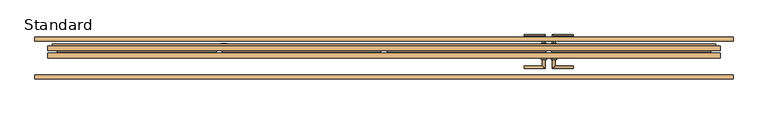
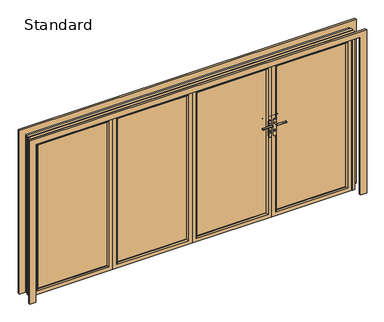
"""IFC4 building model written with IfcOpenShell, lengths in millimetres: door geometry, SMARTS_Visofold1000 : Standard."""

from ifc_helpers import new_model, si_unit, point, frame, frame_2d, origin, place, context, project, spatial, polyline, circle_curve, ellipse_curve, trimmed, segment, composite_curve, outline, extrude, faceted_brep, source, transform, mapped, element, save
from ifc_brep_helpers import plane_surface, cylinder_surface, advanced_brep


def standard_4f1c1134(model_context):
    return source(origin(), model_context, "Body", "SolidModel", [
        advanced_brep(
        [(1010.0, 75.0, 1232.5996413), (1010.0, 75.0, 1215.5996413), (1010.0, 130.0, 1215.5996413), (1010.0, 130.0, 1232.5996413), (1125.0, 130.0, 1232.5996413), (1125.0, 130.0, 1215.5996413)],
        [
            (0, 1, circle_curve(frame((1010.0, 75.0, 1224.0996413), z_axis=(0.0, -1.0, 0.0), x_axis=(0.0, 0.0, -1.0)), 8.5)),
            (1, 0, circle_curve(frame((1010.0, 75.0, 1224.0996413), z_axis=(0.0, -1.0, 0.0), x_axis=(0.0, 0.0, -1.0)), 8.5)),
            (1, 2),
            (2, 3, ellipse_curve(frame((1010.0, 130.0, 1224.0996413), z_axis=(-0.7071067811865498, -0.7071067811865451, 0.0), x_axis=(0.707106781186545, -0.70710678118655, 0.0)), 12.0208153, 8.5)),
            (3, 0),
            (3, 2, ellipse_curve(frame((1010.0, 130.0, 1224.0996413), z_axis=(-0.7071067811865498, -0.7071067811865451, 0.0), x_axis=(0.707106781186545, -0.70710678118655, 0.0)), 12.0208153, 8.5)),
            (4, 5, circle_curve(frame((1125.0, 130.0, 1224.0996413), z_axis=(1.0, 0.0, 0.0), x_axis=(0.0, 0.0, -1.0)), 8.5)),
            (5, 4, circle_curve(frame((1125.0, 130.0, 1224.0996413), z_axis=(1.0, 0.0, 0.0), x_axis=(0.0, 0.0, -1.0)), 8.5)),
            (2, 5),
            (4, 3),
        ],
        [
            plane_surface(frame((1010.0, 75.0, 1224.0996413), z_axis=(0.0, -1.0, 0.0), x_axis=(0.0, 0.0, -1.0))),
            cylinder_surface(frame((1010.0, 75.0, 1224.0996413), z_axis=(0.0, -1.0, 0.0), x_axis=(0.0, 0.0, -1.0)), 8.5),
            plane_surface(frame((1125.0, 130.0, 1224.0996413), z_axis=(1.0, 0.0, 0.0), x_axis=(0.0, 0.0, -1.0))),
            cylinder_surface(frame((1010.0, 130.0, 1224.0996413), z_axis=(-1.0, 0.0, 0.0), x_axis=(0.0, 0.0, -1.0)), 8.5),
        ],
        [
            (0, [[1, 2]]),
            (1, [[-2, 3, 4, 5]]),
            (1, [[-1, -5, 6, -3]]),
            (2, [[7, 8]]),
            (3, [[-4, 9, -7, 10]]),
            (3, [[-6, -10, -8, -9]]),
        ],
    ),
        extrude(outline(composite_curve([segment(trimmed(circle_curve(frame_2d((1258.0996413, 1010.0)), 16.0), [point((1258.0996413, 1026.0))], [point((1258.0996413, 994.0))], False, "CARTESIAN"), True, "CONTINUOUS"), segment(polyline([(1258.0996413, 994.0), (1070.0996413, 994.0)]), True, "CONTINUOUS"), segment(trimmed(circle_curve(frame_2d((1070.0996413, 1010.0)), 16.0), [point((1070.0996413, 994.0))], [point((1070.0996413, 1026.0))], False, "CARTESIAN"), True, "CONTINUOUS"), segment(polyline([(1070.0996413, 1026.0), (1258.0996413, 1026.0)]), True, "CONTINUOUS")], self_intersect=False)), frame((0.0, 75.0, 0.0), z_axis=(0.0, 1.0, 0.0), x_axis=(0.0, 0.0, 1.0)), (0.0, 0.0, 1.0), 10.0),
        advanced_brep(
        [(1018.5, 0.0, 1224.0996413), (1001.5, 0.0, 1224.0996413), (1018.5, -46.5, 1224.0996413), (1001.5, -63.5, 1224.0996413), (1125.0, -46.5, 1224.0996413), (1125.0, -63.5, 1224.0996413)],
        [
            (0, 1, circle_curve(frame((1010.0, 0.0, 1224.0996413), z_axis=(0.0, 1.0, 0.0), x_axis=(-1.0, 0.0, 0.0)), 8.5)),
            (1, 0, circle_curve(frame((1010.0, 0.0, 1224.0996413), z_axis=(0.0, 1.0, 0.0), x_axis=(-1.0, 0.0, 0.0)), 8.5)),
            (0, 2),
            (2, 3, ellipse_curve(frame((1010.0, -55.0, 1224.0996413), z_axis=(-0.7071067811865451, 0.7071067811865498, 0.0), x_axis=(0.7071067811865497, 0.7071067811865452, 0.0)), 12.0208153, 8.5)),
            (3, 1),
            (3, 2, ellipse_curve(frame((1010.0, -55.0, 1224.0996413), z_axis=(-0.7071067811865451, 0.7071067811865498, 0.0), x_axis=(0.7071067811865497, 0.7071067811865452, 0.0)), 12.0208153, 8.5)),
            (4, 5, circle_curve(frame((1125.0, -55.0, 1224.0996413), z_axis=(1.0, 0.0, 0.0), x_axis=(0.0, -1.0, 0.0)), 8.5)),
            (5, 4, circle_curve(frame((1125.0, -55.0, 1224.0996413), z_axis=(1.0, 0.0, 0.0), x_axis=(0.0, -1.0, 0.0)), 8.5)),
            (2, 4),
            (5, 3),
        ],
        [
            plane_surface(frame((1010.0, 0.0, 1224.0996413), z_axis=(0.0, 1.0, 0.0), x_axis=(0.0, 0.0, -1.0))),
            cylinder_surface(frame((1010.0, 0.0, 1224.0996413), z_axis=(0.0, 1.0, 0.0), x_axis=(-1.0, 0.0, 0.0)), 8.5),
            plane_surface(frame((1125.0, -55.0, 1224.0996413), z_axis=(1.0, 0.0, 0.0), x_axis=(0.0, 0.0, -1.0))),
            cylinder_surface(frame((1010.0, -55.0, 1224.0996413), z_axis=(-1.0, 0.0, 0.0), x_axis=(0.0, -1.0, 0.0)), 8.5),
        ],
        [
            (0, [[1, 2]]),
            (1, [[-1, 3, 4, 5]]),
            (1, [[-2, -5, 6, -3]]),
            (2, [[7, 8]]),
            (3, [[-4, 9, -8, 10]]),
            (3, [[-6, -10, -7, -9]]),
        ],
    ),
        extrude(outline(composite_curve([segment(trimmed(circle_curve(frame_2d((1258.0996413, 1010.0)), 16.0), [point((1258.0996413, 1026.0))], [point((1258.0996413, 994.0))], False, "CARTESIAN"), True, "CONTINUOUS"), segment(polyline([(1258.0996413, 994.0), (1070.0996413, 994.0)]), True, "CONTINUOUS"), segment(trimmed(circle_curve(frame_2d((1070.0996413, 1010.0)), 16.0), [point((1070.0996413, 994.0))], [point((1070.0996413, 1026.0))], False, "CARTESIAN"), True, "CONTINUOUS"), segment(polyline([(1070.0996413, 1026.0), (1258.0996413, 1026.0)]), True, "CONTINUOUS")], self_intersect=False)), frame((0.0, -10.0, 0.0), z_axis=(0.0, 1.0, 0.0), x_axis=(0.0, 0.0, 1.0)), (0.0, 0.0, 1.0), 10.0),
        extrude(outline(composite_curve([segment(trimmed(circle_curve(frame_2d((1132.0996413, 1010.0571906)), 8.5), [point((1125.1769586, 1014.9893771))], [point((1125.27562, 1004.9893771))], False, "CARTESIAN"), True, "CONTINUOUS"), segment(polyline([(1125.27562, 1004.9893771), (1117.5996413, 1004.9893771)]), True, "CONTINUOUS"), segment(trimmed(circle_curve(frame_2d((1117.5996413, 1009.9893771)), 5.0), [point((1117.5996413, 1004.9893771))], [point((1117.5996413, 1014.9893771))], False, "CARTESIAN"), True, "CONTINUOUS"), segment(polyline([(1117.5996413, 1014.9893771), (1125.1769586, 1014.9893771)]), True, "CONTINUOUS")], self_intersect=False)), frame((0.0, 85.0, 0.0), z_axis=(0.0, 1.0, 0.0), x_axis=(0.0, 0.0, 1.0)), (0.0, 0.0, 1.0), 2.0),
        extrude(outline(composite_curve([segment(trimmed(circle_curve(frame_2d((1132.0996413, 1010.0571906)), 8.5), [point((1125.1769586, 1014.9893771))], [point((1125.27562, 1004.9893771))], False, "CARTESIAN"), True, "CONTINUOUS"), segment(polyline([(1125.27562, 1004.9893771), (1117.5996413, 1004.9893771)]), True, "CONTINUOUS"), segment(trimmed(circle_curve(frame_2d((1117.5996413, 1009.9893771)), 5.0), [point((1117.5996413, 1004.9893771))], [point((1117.5996413, 1014.9893771))], False, "CARTESIAN"), True, "CONTINUOUS"), segment(polyline([(1117.5996413, 1014.9893771), (1125.1769586, 1014.9893771)]), True, "CONTINUOUS")], self_intersect=False)), frame((0.0, -12.0, 0.0), z_axis=(0.0, 1.0, 0.0), x_axis=(0.0, 0.0, 1.0)), (0.0, 0.0, 1.0), 2.0),
        extrude(outline(polyline([(45.0, 1025.0), (45.0, 1915.0), (1955.0, 1915.0), (1955.0, 1025.0), (45.0, 1025.0)]), holes=[polyline([(1939.5, 1040.5), (1939.5, 1899.5), (60.5, 1899.5), (60.5, 1040.5), (1939.5, 1040.5)])]), frame((0.0, 17.4, 0.0), z_axis=(0.0, 1.0, 0.0), x_axis=(0.0, 0.0, 1.0)), (0.0, 0.0, 1.0), 35.0),
        faceted_brep([(980.0, 74.4, 0.0), (980.0, 52.4, 0.0), (980.0, 52.4, 2000.0), (980.0, 74.4, 2000.0), (1040.5, 52.4, 60.5), (1040.5, 74.4, 60.5), (1040.5, 74.4, 1939.5), (1040.5, 52.4, 1939.5), (1960.0, 74.4, 0.0), (1960.0, 52.4, 0.0), (1960.0, 52.4, 2000.0), (1960.0, 74.4, 2000.0), (1899.5, 74.4, 1939.5), (1899.5, 52.4, 1939.5), (1899.5, 74.4, 60.5), (1899.5, 52.4, 60.5), (997.8691481, 34.8, 17.8691481), (1942.1308519, 34.8, 17.8691481), (1942.1308519, 34.8, 1982.1308519), (997.8691481, 34.8, 1982.1308519), (1025.0, 34.8, 1955.0), (1915.0, 34.8, 1955.0), (1915.0, 34.8, 45.0), (1025.0, 34.8, 45.0), (997.8691481, 52.4, 17.8691481), (997.8691481, 52.4, 1982.1308519), (1025.0, 52.4, 45.0), (1025.0, 52.4, 1955.0), (1942.1308519, 52.4, 1982.1308519), (1915.0, 52.4, 1955.0), (1942.1308519, 52.4, 17.8691481), (1915.0, 52.4, 45.0)], [[[0, 1, 2, 3]], [[4, 5, 6, 7]], [[8, 9, 1, 0]], [[3, 2, 10, 11]], [[7, 6, 12, 13]], [[11, 10, 9, 8]], [[13, 12, 14, 15]], [[3, 11, 8, 0], [5, 14, 12, 6]], [[15, 14, 5, 4]], [[16, 17, 18, 19], [20, 21, 22, 23]], [[24, 16, 19, 25]], [[23, 26, 27, 20]], [[25, 19, 18, 28]], [[20, 27, 29, 21]], [[28, 18, 17, 30]], [[21, 29, 31, 22]], [[30, 17, 16, 24]], [[1, 9, 10, 2], [25, 28, 30, 24]], [[26, 31, 29, 27], [7, 13, 15, 4]], [[22, 31, 26, 23]]]),
        advanced_brep(
        [(1040.5, 13.3, 60.5), (1040.5, 17.4, 60.5), (1040.5, 17.4, 1939.5), (1040.5, 13.3, 1939.5), (980.0, 17.4, 0.0), (980.0, 0.0, 0.0), (980.0, 0.0, 2000.0), (980.0, 17.4, 2000.0), (1899.5, 17.4, 1939.5), (1899.5, 13.3, 1939.5), (1960.0, 0.0, 2000.0), (1960.0, 17.4, 2000.0), (1899.5, 17.4, 60.5), (1899.5, 13.3, 60.5), (1960.0, 0.0, 0.0), (1960.0, 17.4, 0.0), (1027.2, 0.0, 1952.8), (1912.8, 0.0, 1952.8), (1912.8, 0.0, 47.2), (1027.2, 0.0, 47.2), (997.8691481, 34.8, 17.8691481), (997.8691481, 17.4, 17.8691481), (997.8691481, 17.4, 1982.1308519), (997.8691481, 34.8, 1982.1308519), (1942.1308519, 17.4, 1982.1308519), (1942.1308519, 34.8, 1982.1308519), (1942.1308519, 17.4, 17.8691481), (1942.1308519, 34.8, 17.8691481), (1025.0, 17.4, 45.0), (1025.0, 34.8, 45.0), (1025.0, 34.8, 1955.0), (1025.0, 17.4, 1955.0), (1915.0, 34.8, 1955.0), (1915.0, 17.4, 1955.0), (1915.0, 34.8, 45.0), (1915.0, 17.4, 45.0)],
        [
            (0, 1),
            (1, 2),
            (2, 3),
            (3, 0),
            (4, 5),
            (5, 6),
            (6, 7),
            (7, 4),
            (2, 8),
            (8, 9),
            (9, 3),
            (6, 10),
            (10, 11),
            (11, 7),
            (8, 12),
            (12, 13),
            (13, 9),
            (10, 14),
            (14, 15),
            (15, 11),
            (12, 1),
            (0, 13),
            (5, 14),
            (16, 17),
            (17, 18),
            (18, 19),
            (19, 16),
            (4, 15),
            (19, 0, ellipse_curve(frame((1027.2, 13.3, 47.2), z_axis=(-0.70710678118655, 0.0, 0.707106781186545), x_axis=(-0.7071067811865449, 0.0, -0.7071067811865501)), 18.8090404, 13.3)),
            (3, 16, ellipse_curve(frame((1027.2, 13.3, 1952.8), z_axis=(-0.707106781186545, 0.0, -0.7071067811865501), x_axis=(0.7071067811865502, 0.0, -0.7071067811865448)), 18.8090404, 13.3)),
            (9, 17, ellipse_curve(frame((1912.8, 13.3, 1952.8), z_axis=(-0.7071067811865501, 0.0, 0.707106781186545), x_axis=(-0.7071067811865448, 0.0, -0.7071067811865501)), 18.8090404, 13.3)),
            (13, 18, ellipse_curve(frame((1912.8, 13.3, 47.2), z_axis=(0.707106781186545, 0.0, 0.7071067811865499), x_axis=(-0.7071067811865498, 0.0, 0.7071067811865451)), 18.8090404, 13.3)),
            (20, 21),
            (21, 22),
            (22, 23),
            (23, 20),
            (22, 24),
            (24, 25),
            (25, 23),
            (24, 26),
            (26, 27),
            (27, 25),
            (21, 26),
            (20, 27),
            (28, 29),
            (29, 30),
            (30, 31),
            (31, 28),
            (30, 32),
            (32, 33),
            (33, 31),
            (32, 34),
            (34, 35),
            (35, 33),
            (34, 29),
            (28, 35),
        ],
        [
            plane_surface(frame((1040.5, 17.4, 60.5), z_axis=(1.0, 0.0, 0.0), x_axis=(0.0, 0.0, 1.0))),
            plane_surface(frame((980.0, 0.0, 0.0), z_axis=(-1.0, 0.0, 0.0), x_axis=(0.0, 0.0, 1.0))),
            plane_surface(frame((1040.5, 17.4, 1939.5), z_axis=(0.0, 0.0, -1.0), x_axis=(1.0, 0.0, 0.0))),
            plane_surface(frame((980.0, 0.0, 2000.0), z_axis=(0.0, 0.0, 1.0), x_axis=(1.0, 0.0, 0.0))),
            plane_surface(frame((1899.5, 17.4, 1939.5), z_axis=(-1.0, 0.0, 0.0), x_axis=(0.0, 0.0, -1.0))),
            plane_surface(frame((1960.0, 0.0, 2000.0), z_axis=(1.0, 0.0, 0.0), x_axis=(0.0, 0.0, -1.0))),
            plane_surface(frame((1899.5, 17.4, 60.5), z_axis=(0.0, 0.0, 1.0), x_axis=(-1.0, 0.0, 0.0))),
            plane_surface(frame((1912.8, 0.0, 47.2), z_axis=(0.0, -1.0, 0.0), x_axis=(-1.0, 0.0, 0.0))),
            plane_surface(frame((1960.0, 0.0, 0.0), z_axis=(0.0, 0.0, -1.0), x_axis=(-1.0, 0.0, 0.0))),
            cylinder_surface(frame((1027.2, 13.3, 0.0), z_axis=(0.0, 0.0, -1.0), x_axis=(0.0, 1.0, 0.0)), 13.3),
            cylinder_surface(frame((980.0, 13.3, 1952.8), z_axis=(-1.0, 0.0, 0.0), x_axis=(0.0, 1.0, 0.0)), 13.3),
            cylinder_surface(frame((1912.8, 13.3, 2000.0), z_axis=(0.0, 0.0, 1.0), x_axis=(0.0, 1.0, 0.0)), 13.3),
            cylinder_surface(frame((1960.0, 13.3, 47.2), z_axis=(1.0, 0.0, 0.0), x_axis=(0.0, 1.0, 0.0)), 13.3),
            plane_surface(frame((997.8691481, 17.4, 17.8691481), z_axis=(-1.0, 0.0, 0.0), x_axis=(0.0, 0.0, 1.0))),
            plane_surface(frame((997.8691481, 17.4, 1982.1308519), z_axis=(0.0, 0.0, 1.0), x_axis=(1.0, 0.0, 0.0))),
            plane_surface(frame((1942.1308519, 17.4, 1982.1308519), z_axis=(1.0, 0.0, 0.0), x_axis=(0.0, 0.0, -1.0))),
            plane_surface(frame((1960.0, 17.4, 0.0), z_axis=(0.0, 1.0, 0.0), x_axis=(-1.0, 0.0, 0.0))),
            plane_surface(frame((1942.1308519, 17.4, 17.8691481), z_axis=(0.0, 0.0, -1.0), x_axis=(-1.0, 0.0, 0.0))),
            plane_surface(frame((1025.0, 34.8, 45.0), z_axis=(1.0, 0.0, 0.0), x_axis=(0.0, 0.0, 1.0))),
            plane_surface(frame((1025.0, 34.8, 1955.0), z_axis=(0.0, 0.0, -1.0), x_axis=(1.0, 0.0, 0.0))),
            plane_surface(frame((1915.0, 34.8, 1955.0), z_axis=(-1.0, 0.0, 0.0), x_axis=(0.0, 0.0, -1.0))),
            plane_surface(frame((1915.0, 34.8, 45.0), z_axis=(0.0, 0.0, 1.0), x_axis=(-1.0, 0.0, 0.0))),
            plane_surface(frame((1915.0, 17.4, 45.0), z_axis=(0.0, 1.0, 0.0), x_axis=(-1.0, 0.0, 0.0))),
            plane_surface(frame((1942.1308519, 34.8, 17.8691481), z_axis=(0.0, 1.0, 0.0), x_axis=(-1.0, 0.0, 0.0))),
        ],
        [
            (0, [[1, 2, 3, 4]]),
            (1, [[5, 6, 7, 8]]),
            (2, [[-3, 9, 10, 11]]),
            (3, [[-7, 12, 13, 14]]),
            (4, [[-10, 15, 16, 17]]),
            (5, [[-13, 18, 19, 20]]),
            (6, [[-16, 21, -1, 22]]),
            (7, [[23, -18, -12, -6], [24, 25, 26, 27]]),
            (8, [[-19, -23, -5, 28]]),
            (9, [[29, -4, 30, -27]]),
            (10, [[-30, -11, 31, -24]]),
            (11, [[-31, -17, 32, -25]]),
            (12, [[-32, -22, -29, -26]]),
            (13, [[33, 34, 35, 36]]),
            (14, [[-35, 37, 38, 39]]),
            (15, [[-38, 40, 41, 42]]),
            (16, [[-14, -20, -28, -8], [43, -40, -37, -34]]),
            (17, [[-41, -43, -33, 44]]),
            (18, [[45, 46, 47, 48]]),
            (19, [[-47, 49, 50, 51]]),
            (20, [[-50, 52, 53, 54]]),
            (21, [[-53, 55, -45, 56]]),
            (22, [[-51, -54, -56, -48], [-21, -15, -9, -2]]),
            (23, [[-39, -42, -44, -36], [-55, -52, -49, -46]]),
        ],
    ),
        extrude(outline(polyline([(1040.5, 50.1484783), (1899.5, 50.1484783), (1899.5, 21.4), (1040.5, 21.4), (1040.5, 50.1484783)])), frame((0.0, 0.0, 60.5), z_axis=(0.0, 0.0, 1.0), x_axis=(1.0, 0.0, 0.0)), (0.0, 0.0, 1.0), 1879.0),
        extrude(outline(composite_curve([segment(trimmed(circle_curve(frame_2d((1228.0996413, -950.0)), 16.0), [point((1228.0996413, -934.0))], [point((1228.0996413, -966.0))], False, "CARTESIAN"), True, "CONTINUOUS"), segment(polyline([(1228.0996413, -966.0), (1040.0996413, -966.0)]), True, "CONTINUOUS"), segment(trimmed(circle_curve(frame_2d((1040.0996413, -950.0)), 16.0), [point((1040.0996413, -966.0))], [point((1040.0996413, -934.0))], False, "CARTESIAN"), True, "CONTINUOUS"), segment(polyline([(1040.0996413, -934.0), (1228.0996413, -934.0)]), True, "CONTINUOUS")], self_intersect=False)), frame((0.0, 75.0, 0.0), z_axis=(0.0, 1.0, 0.0), x_axis=(0.0, 0.0, 1.0)), (0.0, 0.0, 1.0), 10.0),
        extrude(outline(polyline([(45.0, -935.0), (45.0, -45.0), (1955.0, -45.0), (1955.0, -935.0), (45.0, -935.0)]), holes=[polyline([(1939.5, -919.5), (1939.5, -60.5), (60.5, -60.5), (60.5, -919.5), (1939.5, -919.5)])]), frame((0.0, 17.4, 0.0), z_axis=(0.0, 1.0, 0.0), x_axis=(0.0, 0.0, 1.0)), (0.0, 0.0, 1.0), 35.0),
        faceted_brep([(-980.0, 74.4, 0.0), (-980.0, 52.4, 0.0), (-980.0, 52.4, 2000.0), (-980.0, 74.4, 2000.0), (-919.5, 52.4, 60.5), (-919.5, 74.4, 60.5), (-919.5, 74.4, 1939.5), (-919.5, 52.4, 1939.5), (0.0, 52.4, 2000.0), (0.0, 74.4, 2000.0), (-60.5, 74.4, 1939.5), (-60.5, 52.4, 1939.5), (0.0, 52.4, 0.0), (0.0, 74.4, 0.0), (-60.5, 74.4, 60.5), (-60.5, 52.4, 60.5), (-962.1308519, 34.8, 17.8691481), (-17.8691481, 34.8, 17.8691481), (-17.8691481, 34.8, 1982.1308519), (-962.1308519, 34.8, 1982.1308519), (-935.0, 34.8, 1955.0), (-45.0, 34.8, 1955.0), (-45.0, 34.8, 45.0), (-935.0, 34.8, 45.0), (-962.1308519, 52.4, 17.8691481), (-962.1308519, 52.4, 1982.1308519), (-935.0, 52.4, 45.0), (-935.0, 52.4, 1955.0), (-17.8691481, 52.4, 1982.1308519), (-45.0, 52.4, 1955.0), (-17.8691481, 52.4, 17.8691481), (-45.0, 52.4, 45.0)], [[[0, 1, 2, 3]], [[4, 5, 6, 7]], [[3, 2, 8, 9]], [[7, 6, 10, 11]], [[9, 8, 12, 13]], [[11, 10, 14, 15]], [[13, 12, 1, 0]], [[3, 9, 13, 0], [5, 14, 10, 6]], [[15, 14, 5, 4]], [[16, 17, 18, 19], [20, 21, 22, 23]], [[24, 16, 19, 25]], [[23, 26, 27, 20]], [[25, 19, 18, 28]], [[20, 27, 29, 21]], [[28, 18, 17, 30]], [[21, 29, 31, 22]], [[30, 17, 16, 24]], [[1, 12, 8, 2], [25, 28, 30, 24]], [[26, 31, 29, 27], [7, 11, 15, 4]], [[22, 31, 26, 23]]]),
        advanced_brep(
        [(-919.5, 13.3, 60.5), (-919.5, 17.4, 60.5), (-919.5, 17.4, 1939.5), (-919.5, 13.3, 1939.5), (-980.0, 17.4, 0.0), (-980.0, 0.0, 0.0), (-980.0, 0.0, 2000.0), (-980.0, 17.4, 2000.0), (-60.5, 17.4, 1939.5), (-60.5, 13.3, 1939.5), (0.0, 0.0, 2000.0), (0.0, 17.4, 2000.0), (-60.5, 17.4, 60.5), (-60.5, 13.3, 60.5), (0.0, 0.0, 0.0), (0.0, 17.4, 0.0), (-932.8, 0.0, 1952.8), (-47.2, 0.0, 1952.8), (-47.2, 0.0, 47.2), (-932.8, 0.0, 47.2), (-962.1308519, 34.8, 17.8691481), (-962.1308519, 17.4, 17.8691481), (-962.1308519, 17.4, 1982.1308519), (-962.1308519, 34.8, 1982.1308519), (-17.8691481, 17.4, 1982.1308519), (-17.8691481, 34.8, 1982.1308519), (-17.8691481, 17.4, 17.8691481), (-17.8691481, 34.8, 17.8691481), (-935.0, 17.4, 45.0), (-935.0, 34.8, 45.0), (-935.0, 34.8, 1955.0), (-935.0, 17.4, 1955.0), (-45.0, 34.8, 1955.0), (-45.0, 17.4, 1955.0), (-45.0, 34.8, 45.0), (-45.0, 17.4, 45.0)],
        [
            (0, 1),
            (1, 2),
            (2, 3),
            (3, 0),
            (4, 5),
            (5, 6),
            (6, 7),
            (7, 4),
            (2, 8),
            (8, 9),
            (9, 3),
            (6, 10),
            (10, 11),
            (11, 7),
            (8, 12),
            (12, 13),
            (13, 9),
            (10, 14),
            (14, 15),
            (15, 11),
            (12, 1),
            (0, 13),
            (5, 14),
            (16, 17),
            (17, 18),
            (18, 19),
            (19, 16),
            (4, 15),
            (19, 0, ellipse_curve(frame((-932.8, 13.3, 47.2), z_axis=(-0.70710678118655, 0.0, 0.707106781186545), x_axis=(-0.7071067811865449, 0.0, -0.7071067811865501)), 18.8090404, 13.3)),
            (3, 16, ellipse_curve(frame((-932.8, 13.3, 1952.8), z_axis=(-0.707106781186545, 0.0, -0.7071067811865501), x_axis=(0.7071067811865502, 0.0, -0.7071067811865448)), 18.8090404, 13.3)),
            (9, 17, ellipse_curve(frame((-47.2, 13.3, 1952.8), z_axis=(-0.7071067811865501, 0.0, 0.707106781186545), x_axis=(-0.7071067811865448, 0.0, -0.7071067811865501)), 18.8090404, 13.3)),
            (13, 18, ellipse_curve(frame((-47.2, 13.3, 47.2), z_axis=(0.707106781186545, 0.0, 0.7071067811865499), x_axis=(-0.7071067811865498, 0.0, 0.7071067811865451)), 18.8090404, 13.3)),
            (20, 21),
            (21, 22),
            (22, 23),
            (23, 20),
            (22, 24),
            (24, 25),
            (25, 23),
            (24, 26),
            (26, 27),
            (27, 25),
            (21, 26),
            (20, 27),
            (28, 29),
            (29, 30),
            (30, 31),
            (31, 28),
            (30, 32),
            (32, 33),
            (33, 31),
            (32, 34),
            (34, 35),
            (35, 33),
            (34, 29),
            (28, 35),
        ],
        [
            plane_surface(frame((-919.5, 17.4, 60.5), z_axis=(1.0, 0.0, 0.0), x_axis=(0.0, 0.0, 1.0))),
            plane_surface(frame((-980.0, 0.0, 0.0), z_axis=(-1.0, 0.0, 0.0), x_axis=(0.0, 0.0, 1.0))),
            plane_surface(frame((-919.5, 17.4, 1939.5), z_axis=(0.0, 0.0, -1.0), x_axis=(1.0, 0.0, 0.0))),
            plane_surface(frame((-980.0, 0.0, 2000.0), z_axis=(0.0, 0.0, 1.0), x_axis=(1.0, 0.0, 0.0))),
            plane_surface(frame((-60.5, 17.4, 1939.5), z_axis=(-1.0, 0.0, 0.0), x_axis=(0.0, 0.0, -1.0))),
            plane_surface(frame((0.0, 0.0, 2000.0), z_axis=(1.0, 0.0, 0.0), x_axis=(0.0, 0.0, -1.0))),
            plane_surface(frame((-60.5, 17.4, 60.5), z_axis=(0.0, 0.0, 1.0), x_axis=(-1.0, 0.0, 0.0))),
            plane_surface(frame((-47.2, 0.0, 47.2), z_axis=(0.0, -1.0, 0.0), x_axis=(-1.0, 0.0, 0.0))),
            plane_surface(frame((0.0, 0.0, 0.0), z_axis=(0.0, 0.0, -1.0), x_axis=(-1.0, 0.0, 0.0))),
            cylinder_surface(frame((-932.8, 13.3, 0.0), z_axis=(0.0, 0.0, -1.0), x_axis=(0.0, 1.0, 0.0)), 13.3),
            cylinder_surface(frame((-980.0, 13.3, 1952.8), z_axis=(-1.0, 0.0, 0.0), x_axis=(0.0, 1.0, 0.0)), 13.3),
            cylinder_surface(frame((-47.2, 13.3, 2000.0), z_axis=(0.0, 0.0, 1.0), x_axis=(0.0, 1.0, 0.0)), 13.3),
            cylinder_surface(frame((0.0, 13.3, 47.2), z_axis=(1.0, 0.0, 0.0), x_axis=(0.0, 1.0, 0.0)), 13.3),
            plane_surface(frame((-962.1308519, 17.4, 17.8691481), z_axis=(-1.0, 0.0, 0.0), x_axis=(0.0, 0.0, 1.0))),
            plane_surface(frame((-962.1308519, 17.4, 1982.1308519), z_axis=(0.0, 0.0, 1.0), x_axis=(1.0, 0.0, 0.0))),
            plane_surface(frame((-17.8691481, 17.4, 1982.1308519), z_axis=(1.0, 0.0, 0.0), x_axis=(0.0, 0.0, -1.0))),
            plane_surface(frame((0.0, 17.4, 0.0), z_axis=(0.0, 1.0, 0.0), x_axis=(-1.0, 0.0, 0.0))),
            plane_surface(frame((-17.8691481, 17.4, 17.8691481), z_axis=(0.0, 0.0, -1.0), x_axis=(-1.0, 0.0, 0.0))),
            plane_surface(frame((-935.0, 34.8, 45.0), z_axis=(1.0, 0.0, 0.0), x_axis=(0.0, 0.0, 1.0))),
            plane_surface(frame((-935.0, 34.8, 1955.0), z_axis=(0.0, 0.0, -1.0), x_axis=(1.0, 0.0, 0.0))),
            plane_surface(frame((-45.0, 34.8, 1955.0), z_axis=(-1.0, 0.0, 0.0), x_axis=(0.0, 0.0, -1.0))),
            plane_surface(frame((-45.0, 34.8, 45.0), z_axis=(0.0, 0.0, 1.0), x_axis=(-1.0, 0.0, 0.0))),
            plane_surface(frame((-45.0, 17.4, 45.0), z_axis=(0.0, 1.0, 0.0), x_axis=(-1.0, 0.0, 0.0))),
            plane_surface(frame((-17.8691481, 34.8, 17.8691481), z_axis=(0.0, 1.0, 0.0), x_axis=(-1.0, 0.0, 0.0))),
        ],
        [
            (0, [[1, 2, 3, 4]]),
            (1, [[5, 6, 7, 8]]),
            (2, [[-3, 9, 10, 11]]),
            (3, [[-7, 12, 13, 14]]),
            (4, [[-10, 15, 16, 17]]),
            (5, [[-13, 18, 19, 20]]),
            (6, [[-16, 21, -1, 22]]),
            (7, [[23, -18, -12, -6], [24, 25, 26, 27]]),
            (8, [[-19, -23, -5, 28]]),
            (9, [[29, -4, 30, -27]]),
            (10, [[-30, -11, 31, -24]]),
            (11, [[-31, -17, 32, -25]]),
            (12, [[-32, -22, -29, -26]]),
            (13, [[33, 34, 35, 36]]),
            (14, [[-35, 37, 38, 39]]),
            (15, [[-38, 40, 41, 42]]),
            (16, [[-14, -20, -28, -8], [43, -40, -37, -34]]),
            (17, [[-41, -43, -33, 44]]),
            (18, [[45, 46, 47, 48]]),
            (19, [[-47, 49, 50, 51]]),
            (20, [[-50, 52, 53, 54]]),
            (21, [[-53, 55, -45, 56]]),
            (22, [[-51, -54, -56, -48], [-21, -15, -9, -2]]),
            (23, [[-39, -42, -44, -36], [-55, -52, -49, -46]]),
        ],
    ),
        extrude(outline(polyline([(-919.5, 50.1484783), (-60.5, 50.1484783), (-60.5, 21.4), (-919.5, 21.4), (-919.5, 50.1484783)])), frame((0.0, 0.0, 60.5), z_axis=(0.0, 0.0, 1.0), x_axis=(1.0, 0.0, 0.0)), (0.0, 0.0, 1.0), 1879.0),
        advanced_brep(
        [(950.0, 75.0, 1232.5996413), (950.0, 75.0, 1215.5996413), (950.0, 130.0, 1232.5996413), (950.0, 130.0, 1215.5996413), (835.0, 130.0, 1232.5996413), (835.0, 130.0, 1215.5996413)],
        [
            (0, 1, circle_curve(frame((950.0, 75.0, 1224.0996413), z_axis=(0.0, -1.0, 0.0), x_axis=(0.0, 0.0, -1.0)), 8.5)),
            (1, 0, circle_curve(frame((950.0, 75.0, 1224.0996413), z_axis=(0.0, -1.0, 0.0), x_axis=(0.0, 0.0, -1.0)), 8.5)),
            (0, 2),
            (2, 3, ellipse_curve(frame((950.0, 130.0, 1224.0996413), z_axis=(0.7071067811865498, -0.7071067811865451, 0.0), x_axis=(-0.707106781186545, -0.70710678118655, 0.0)), 12.0208153, 8.5)),
            (3, 1),
            (3, 2, ellipse_curve(frame((950.0, 130.0, 1224.0996413), z_axis=(0.7071067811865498, -0.7071067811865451, 0.0), x_axis=(-0.707106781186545, -0.70710678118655, 0.0)), 12.0208153, 8.5)),
            (4, 5, circle_curve(frame((835.0, 130.0, 1224.0996413), z_axis=(-1.0, 0.0, 0.0), x_axis=(0.0, 0.0, -1.0)), 8.5)),
            (5, 4, circle_curve(frame((835.0, 130.0, 1224.0996413), z_axis=(-1.0, 0.0, 0.0), x_axis=(0.0, 0.0, -1.0)), 8.5)),
            (2, 4),
            (5, 3),
        ],
        [
            plane_surface(frame((950.0, 75.0, 1224.0996413), z_axis=(0.0, -1.0, 0.0), x_axis=(0.0, 0.0, -1.0))),
            cylinder_surface(frame((950.0, 75.0, 1224.0996413), z_axis=(0.0, -1.0, 0.0), x_axis=(0.0, 0.0, -1.0)), 8.5),
            plane_surface(frame((835.0, 130.0, 1224.0996413), z_axis=(-1.0, 0.0, 0.0), x_axis=(0.0, 0.0, -1.0))),
            cylinder_surface(frame((950.0, 130.0, 1224.0996413), z_axis=(1.0, 0.0, 0.0), x_axis=(0.0, 0.0, -1.0)), 8.5),
        ],
        [
            (0, [[1, 2]]),
            (1, [[3, 4, 5, -1]]),
            (1, [[-5, 6, -3, -2]]),
            (2, [[7, 8]]),
            (3, [[9, -8, 10, -4]]),
            (3, [[-10, -7, -9, -6]]),
        ],
    ),
        extrude(outline(composite_curve([segment(polyline([(1258.0996413, 934.0), (1070.0996413, 934.0)]), True, "CONTINUOUS"), segment(trimmed(circle_curve(frame_2d((1070.0996413, 950.0)), 16.0), [point((1070.0996413, 934.0))], [point((1070.0996413, 966.0))], False, "CARTESIAN"), True, "CONTINUOUS"), segment(polyline([(1070.0996413, 966.0), (1258.0996413, 966.0)]), True, "CONTINUOUS"), segment(trimmed(circle_curve(frame_2d((1258.0996413, 950.0)), 16.0), [point((1258.0996413, 966.0))], [point((1258.0996413, 934.0))], False, "CARTESIAN"), True, "CONTINUOUS")], self_intersect=False)), frame((0.0, 75.0, 0.0), z_axis=(0.0, 1.0, 0.0), x_axis=(0.0, 0.0, 1.0)), (0.0, 0.0, 1.0), 10.0),
        advanced_brep(
        [(941.5, 0.0, 1224.0996413), (958.5, 0.0, 1224.0996413), (958.5, -63.5, 1224.0996413), (941.5, -46.5, 1224.0996413), (835.0, -46.5, 1224.0996413), (835.0, -63.5, 1224.0996413)],
        [
            (0, 1, circle_curve(frame((950.0, 0.0, 1224.0996413), z_axis=(0.0, 1.0, 0.0), x_axis=(1.0, 0.0, 0.0)), 8.5)),
            (1, 0, circle_curve(frame((950.0, 0.0, 1224.0996413), z_axis=(0.0, 1.0, 0.0), x_axis=(1.0, 0.0, 0.0)), 8.5)),
            (1, 2),
            (2, 3, ellipse_curve(frame((950.0, -55.0, 1224.0996413), z_axis=(0.7071067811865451, 0.7071067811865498, 0.0), x_axis=(-0.7071067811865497, 0.7071067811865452, 0.0)), 12.0208153, 8.5)),
            (3, 0),
            (3, 2, ellipse_curve(frame((950.0, -55.0, 1224.0996413), z_axis=(0.7071067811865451, 0.7071067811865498, 0.0), x_axis=(-0.7071067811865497, 0.7071067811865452, 0.0)), 12.0208153, 8.5)),
            (4, 5, circle_curve(frame((835.0, -55.0, 1224.0996413), z_axis=(-1.0, 0.0, 0.0), x_axis=(0.0, -1.0, 0.0)), 8.5)),
            (5, 4, circle_curve(frame((835.0, -55.0, 1224.0996413), z_axis=(-1.0, 0.0, 0.0), x_axis=(0.0, -1.0, 0.0)), 8.5)),
            (2, 5),
            (4, 3),
        ],
        [
            plane_surface(frame((950.0, 0.0, 1224.0996413), z_axis=(0.0, 1.0, 0.0), x_axis=(0.0, 0.0, -1.0))),
            cylinder_surface(frame((950.0, 0.0, 1224.0996413), z_axis=(0.0, 1.0, 0.0), x_axis=(1.0, 0.0, 0.0)), 8.5),
            plane_surface(frame((835.0, -55.0, 1224.0996413), z_axis=(-1.0, 0.0, 0.0), x_axis=(0.0, 0.0, -1.0))),
            cylinder_surface(frame((950.0, -55.0, 1224.0996413), z_axis=(1.0, 0.0, 0.0), x_axis=(0.0, -1.0, 0.0)), 8.5),
        ],
        [
            (0, [[1, 2]]),
            (1, [[3, 4, 5, -2]]),
            (1, [[-5, 6, -3, -1]]),
            (2, [[7, 8]]),
            (3, [[9, -7, 10, -4]]),
            (3, [[-10, -8, -9, -6]]),
        ],
    ),
        extrude(outline(composite_curve([segment(polyline([(1258.0996413, 934.0), (1070.0996413, 934.0)]), True, "CONTINUOUS"), segment(trimmed(circle_curve(frame_2d((1070.0996413, 950.0)), 16.0), [point((1070.0996413, 934.0))], [point((1070.0996413, 966.0))], False, "CARTESIAN"), True, "CONTINUOUS"), segment(polyline([(1070.0996413, 966.0), (1258.0996413, 966.0)]), True, "CONTINUOUS"), segment(trimmed(circle_curve(frame_2d((1258.0996413, 950.0)), 16.0), [point((1258.0996413, 966.0))], [point((1258.0996413, 934.0))], False, "CARTESIAN"), True, "CONTINUOUS")], self_intersect=False)), frame((0.0, -10.0, 0.0), z_axis=(0.0, 1.0, 0.0), x_axis=(0.0, 0.0, 1.0)), (0.0, 0.0, 1.0), 10.0),
        extrude(outline(composite_curve([segment(polyline([(1125.1769586, 945.0106229), (1117.5996413, 945.0106229)]), True, "CONTINUOUS"), segment(trimmed(circle_curve(frame_2d((1117.5996413, 950.0106229)), 5.0), [point((1117.5996413, 945.0106229))], [point((1117.5996413, 955.0106229))], False, "CARTESIAN"), True, "CONTINUOUS"), segment(polyline([(1117.5996413, 955.0106229), (1125.27562, 955.0106229)]), True, "CONTINUOUS"), segment(trimmed(circle_curve(frame_2d((1132.0996413, 949.9428094)), 8.5), [point((1125.27562, 955.0106229))], [point((1125.1769586, 945.0106229))], False, "CARTESIAN"), True, "CONTINUOUS")], self_intersect=False)), frame((0.0, 85.0, 0.0), z_axis=(0.0, 1.0, 0.0), x_axis=(0.0, 0.0, 1.0)), (0.0, 0.0, 1.0), 2.0),
        extrude(outline(composite_curve([segment(polyline([(1125.1769586, 945.0106229), (1117.5996413, 945.0106229)]), True, "CONTINUOUS"), segment(trimmed(circle_curve(frame_2d((1117.5996413, 950.0106229)), 5.0), [point((1117.5996413, 945.0106229))], [point((1117.5996413, 955.0106229))], False, "CARTESIAN"), True, "CONTINUOUS"), segment(polyline([(1117.5996413, 955.0106229), (1125.27562, 955.0106229)]), True, "CONTINUOUS"), segment(trimmed(circle_curve(frame_2d((1132.0996413, 949.9428094)), 8.5), [point((1125.27562, 955.0106229))], [point((1125.1769586, 945.0106229))], False, "CARTESIAN"), True, "CONTINUOUS")], self_intersect=False)), frame((0.0, -12.0, 0.0), z_axis=(0.0, 1.0, 0.0), x_axis=(0.0, 0.0, 1.0)), (0.0, 0.0, 1.0), 2.0),
        extrude(outline(polyline([(45.0, 935.0), (1955.0, 935.0), (1955.0, 45.0), (45.0, 45.0), (45.0, 935.0)]), holes=[polyline([(1939.5, 919.5), (60.5, 919.5), (60.5, 60.5), (1939.5, 60.5), (1939.5, 919.5)])]), frame((0.0, 17.4, 0.0), z_axis=(0.0, 1.0, 0.0), x_axis=(0.0, 0.0, 1.0)), (0.0, 0.0, 1.0), 35.0),
        faceted_brep([(980.0, 74.4, 0.0), (980.0, 74.4, 2000.0), (980.0, 52.4, 2000.0), (980.0, 52.4, 0.0), (919.5, 52.4, 60.5), (919.5, 52.4, 1939.5), (919.5, 74.4, 1939.5), (919.5, 74.4, 60.5), (0.0, 74.4, 2000.0), (0.0, 52.4, 2000.0), (60.5, 52.4, 1939.5), (60.5, 74.4, 1939.5), (0.0, 74.4, 0.0), (0.0, 52.4, 0.0), (60.5, 52.4, 60.5), (60.5, 74.4, 60.5), (962.1308519, 34.8, 17.8691481), (962.1308519, 34.8, 1982.1308519), (17.8691481, 34.8, 1982.1308519), (17.8691481, 34.8, 17.8691481), (935.0, 34.8, 1955.0), (935.0, 34.8, 45.0), (45.0, 34.8, 45.0), (45.0, 34.8, 1955.0), (962.1308519, 52.4, 17.8691481), (962.1308519, 52.4, 1982.1308519), (935.0, 52.4, 1955.0), (935.0, 52.4, 45.0), (17.8691481, 52.4, 1982.1308519), (45.0, 52.4, 1955.0), (17.8691481, 52.4, 17.8691481), (45.0, 52.4, 45.0)], [[[0, 1, 2, 3]], [[4, 5, 6, 7]], [[1, 8, 9, 2]], [[5, 10, 11, 6]], [[8, 12, 13, 9]], [[10, 14, 15, 11]], [[12, 0, 3, 13]], [[1, 0, 12, 8], [7, 6, 11, 15]], [[14, 4, 7, 15]], [[16, 17, 18, 19], [20, 21, 22, 23]], [[24, 25, 17, 16]], [[21, 20, 26, 27]], [[25, 28, 18, 17]], [[20, 23, 29, 26]], [[28, 30, 19, 18]], [[23, 22, 31, 29]], [[30, 24, 16, 19]], [[3, 2, 9, 13], [25, 24, 30, 28]], [[27, 26, 29, 31], [5, 4, 14, 10]], [[22, 21, 27, 31]]]),
        advanced_brep(
        [(919.5, 13.3, 60.5), (919.5, 13.3, 1939.5), (919.5, 17.4, 1939.5), (919.5, 17.4, 60.5), (980.0, 17.4, 0.0), (980.0, 17.4, 2000.0), (980.0, 0.0, 2000.0), (980.0, 0.0, 0.0), (60.5, 13.3, 1939.5), (60.5, 17.4, 1939.5), (0.0, 17.4, 2000.0), (0.0, 0.0, 2000.0), (60.5, 13.3, 60.5), (60.5, 17.4, 60.5), (0.0, 17.4, 0.0), (0.0, 0.0, 0.0), (932.8, 0.0, 1952.8), (932.8, 0.0, 47.2), (47.2, 0.0, 47.2), (47.2, 0.0, 1952.8), (962.1308519, 34.8, 17.8691481), (962.1308519, 34.8, 1982.1308519), (962.1308519, 17.4, 1982.1308519), (962.1308519, 17.4, 17.8691481), (17.8691481, 34.8, 1982.1308519), (17.8691481, 17.4, 1982.1308519), (17.8691481, 34.8, 17.8691481), (17.8691481, 17.4, 17.8691481), (935.0, 17.4, 45.0), (935.0, 17.4, 1955.0), (935.0, 34.8, 1955.0), (935.0, 34.8, 45.0), (45.0, 17.4, 1955.0), (45.0, 34.8, 1955.0), (45.0, 17.4, 45.0), (45.0, 34.8, 45.0)],
        [
            (0, 1),
            (1, 2),
            (2, 3),
            (3, 0),
            (4, 5),
            (5, 6),
            (6, 7),
            (7, 4),
            (1, 8),
            (8, 9),
            (9, 2),
            (5, 10),
            (10, 11),
            (11, 6),
            (8, 12),
            (12, 13),
            (13, 9),
            (10, 14),
            (14, 15),
            (15, 11),
            (12, 0),
            (3, 13),
            (15, 7),
            (16, 17),
            (17, 18),
            (18, 19),
            (19, 16),
            (14, 4),
            (16, 1, ellipse_curve(frame((932.8, 13.3, 1952.8), z_axis=(0.707106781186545, 0.0, -0.7071067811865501), x_axis=(-0.7071067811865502, 0.0, -0.7071067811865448)), 18.8090404, 13.3)),
            (0, 17, ellipse_curve(frame((932.8, 13.3, 47.2), z_axis=(0.70710678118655, 0.0, 0.707106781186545), x_axis=(0.7071067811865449, 0.0, -0.7071067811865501)), 18.8090404, 13.3)),
            (19, 8, ellipse_curve(frame((47.2, 13.3, 1952.8), z_axis=(0.7071067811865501, 0.0, 0.707106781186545), x_axis=(0.7071067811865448, 0.0, -0.7071067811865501)), 18.8090404, 13.3)),
            (18, 12, ellipse_curve(frame((47.2, 13.3, 47.2), z_axis=(-0.707106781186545, 0.0, 0.7071067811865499), x_axis=(0.7071067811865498, 0.0, 0.7071067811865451)), 18.8090404, 13.3)),
            (20, 21),
            (21, 22),
            (22, 23),
            (23, 20),
            (21, 24),
            (24, 25),
            (25, 22),
            (24, 26),
            (26, 27),
            (27, 25),
            (27, 23),
            (26, 20),
            (28, 29),
            (29, 30),
            (30, 31),
            (31, 28),
            (29, 32),
            (32, 33),
            (33, 30),
            (32, 34),
            (34, 35),
            (35, 33),
            (34, 28),
            (31, 35),
        ],
        [
            plane_surface(frame((919.5, 17.4, 60.5), z_axis=(-1.0, 0.0, 0.0), x_axis=(0.0, 0.0, 1.0))),
            plane_surface(frame((980.0, 0.0, 0.0), z_axis=(1.0, 0.0, 0.0), x_axis=(0.0, 0.0, 1.0))),
            plane_surface(frame((919.5, 17.4, 1939.5), z_axis=(0.0, 0.0, -1.0), x_axis=(-1.0, 0.0, 0.0))),
            plane_surface(frame((980.0, 0.0, 2000.0), z_axis=(0.0, 0.0, 1.0), x_axis=(-1.0, 0.0, 0.0))),
            plane_surface(frame((60.5, 17.4, 1939.5), z_axis=(1.0, 0.0, 0.0), x_axis=(0.0, 0.0, -1.0))),
            plane_surface(frame((0.0, 0.0, 2000.0), z_axis=(-1.0, 0.0, 0.0), x_axis=(0.0, 0.0, -1.0))),
            plane_surface(frame((60.5, 17.4, 60.5), z_axis=(0.0, 0.0, 1.0), x_axis=(1.0, 0.0, 0.0))),
            plane_surface(frame((47.2, 0.0, 47.2), z_axis=(0.0, -1.0, 0.0), x_axis=(1.0, 0.0, 0.0))),
            plane_surface(frame((0.0, 0.0, 0.0), z_axis=(0.0, 0.0, -1.0), x_axis=(1.0, 0.0, 0.0))),
            cylinder_surface(frame((932.8, 13.3, 0.0), z_axis=(0.0, 0.0, -1.0), x_axis=(0.0, 1.0, 0.0)), 13.3),
            cylinder_surface(frame((980.0, 13.3, 1952.8), z_axis=(1.0, 0.0, 0.0), x_axis=(0.0, 1.0, 0.0)), 13.3),
            cylinder_surface(frame((47.2, 13.3, 2000.0), z_axis=(0.0, 0.0, 1.0), x_axis=(0.0, 1.0, 0.0)), 13.3),
            cylinder_surface(frame((0.0, 13.3, 47.2), z_axis=(-1.0, 0.0, 0.0), x_axis=(0.0, 1.0, 0.0)), 13.3),
            plane_surface(frame((962.1308519, 17.4, 17.8691481), z_axis=(1.0, 0.0, 0.0), x_axis=(0.0, 0.0, 1.0))),
            plane_surface(frame((962.1308519, 17.4, 1982.1308519), z_axis=(0.0, 0.0, 1.0), x_axis=(-1.0, 0.0, 0.0))),
            plane_surface(frame((17.8691481, 17.4, 1982.1308519), z_axis=(-1.0, 0.0, 0.0), x_axis=(0.0, 0.0, -1.0))),
            plane_surface(frame((0.0, 17.4, 0.0), z_axis=(0.0, 1.0, 0.0), x_axis=(1.0, 0.0, 0.0))),
            plane_surface(frame((17.8691481, 17.4, 17.8691481), z_axis=(0.0, 0.0, -1.0), x_axis=(1.0, 0.0, 0.0))),
            plane_surface(frame((935.0, 34.8, 45.0), z_axis=(-1.0, 0.0, 0.0), x_axis=(0.0, 0.0, 1.0))),
            plane_surface(frame((935.0, 34.8, 1955.0), z_axis=(0.0, 0.0, -1.0), x_axis=(-1.0, 0.0, 0.0))),
            plane_surface(frame((45.0, 34.8, 1955.0), z_axis=(1.0, 0.0, 0.0), x_axis=(0.0, 0.0, -1.0))),
            plane_surface(frame((45.0, 34.8, 45.0), z_axis=(0.0, 0.0, 1.0), x_axis=(1.0, 0.0, 0.0))),
            plane_surface(frame((45.0, 17.4, 45.0), z_axis=(0.0, 1.0, 0.0), x_axis=(1.0, 0.0, 0.0))),
            plane_surface(frame((17.8691481, 34.8, 17.8691481), z_axis=(0.0, 1.0, 0.0), x_axis=(1.0, 0.0, 0.0))),
        ],
        [
            (0, [[1, 2, 3, 4]]),
            (1, [[5, 6, 7, 8]]),
            (2, [[9, 10, 11, -2]]),
            (3, [[12, 13, 14, -6]]),
            (4, [[15, 16, 17, -10]]),
            (5, [[18, 19, 20, -13]]),
            (6, [[21, -4, 22, -16]]),
            (7, [[-7, -14, -20, 23], [24, 25, 26, 27]]),
            (8, [[28, -8, -23, -19]]),
            (9, [[-24, 29, -1, 30]]),
            (10, [[-27, 31, -9, -29]]),
            (11, [[-26, 32, -15, -31]]),
            (12, [[-25, -30, -21, -32]]),
            (13, [[33, 34, 35, 36]]),
            (14, [[37, 38, 39, -34]]),
            (15, [[40, 41, 42, -38]]),
            (16, [[-5, -28, -18, -12], [-35, -39, -42, 43]]),
            (17, [[44, -36, -43, -41]]),
            (18, [[45, 46, 47, 48]]),
            (19, [[49, 50, 51, -46]]),
            (20, [[52, 53, 54, -50]]),
            (21, [[55, -48, 56, -53]]),
            (22, [[-45, -55, -52, -49], [-3, -11, -17, -22]]),
            (23, [[-33, -44, -40, -37], [-47, -51, -54, -56]]),
        ],
    ),
        extrude(outline(polyline([(919.5, 50.1484783), (919.5, 21.4), (60.5, 21.4), (60.5, 50.1484783), (919.5, 50.1484783)])), frame((0.0, 0.0, 60.5), z_axis=(0.0, 0.0, 1.0), x_axis=(1.0, 0.0, 0.0)), (0.0, 0.0, 1.0), 1879.0),
        extrude(outline(polyline([(45.0, -1025.0), (1955.0, -1025.0), (1955.0, -1915.0), (45.0, -1915.0), (45.0, -1025.0)]), holes=[polyline([(1939.5, -1040.5), (60.5, -1040.5), (60.5, -1899.5), (1939.5, -1899.5), (1939.5, -1040.5)])]), frame((0.0, 17.4, 0.0), z_axis=(0.0, 1.0, 0.0), x_axis=(0.0, 0.0, 1.0)), (0.0, 0.0, 1.0), 35.0),
        faceted_brep([(-980.0, 74.4, 0.0), (-980.0, 74.4, 2000.0), (-980.0, 52.4, 2000.0), (-980.0, 52.4, 0.0), (-1040.5, 52.4, 60.5), (-1040.5, 52.4, 1939.5), (-1040.5, 74.4, 1939.5), (-1040.5, 74.4, 60.5), (-1960.0, 74.4, 0.0), (-1960.0, 52.4, 0.0), (-1960.0, 74.4, 2000.0), (-1960.0, 52.4, 2000.0), (-1899.5, 52.4, 1939.5), (-1899.5, 74.4, 1939.5), (-1899.5, 52.4, 60.5), (-1899.5, 74.4, 60.5), (-997.8691481, 34.8, 17.8691481), (-997.8691481, 34.8, 1982.1308519), (-1942.1308519, 34.8, 1982.1308519), (-1942.1308519, 34.8, 17.8691481), (-1025.0, 34.8, 1955.0), (-1025.0, 34.8, 45.0), (-1915.0, 34.8, 45.0), (-1915.0, 34.8, 1955.0), (-997.8691481, 52.4, 17.8691481), (-997.8691481, 52.4, 1982.1308519), (-1025.0, 52.4, 1955.0), (-1025.0, 52.4, 45.0), (-1942.1308519, 52.4, 1982.1308519), (-1915.0, 52.4, 1955.0), (-1942.1308519, 52.4, 17.8691481), (-1915.0, 52.4, 45.0)], [[[0, 1, 2, 3]], [[4, 5, 6, 7]], [[8, 0, 3, 9]], [[1, 10, 11, 2]], [[5, 12, 13, 6]], [[10, 8, 9, 11]], [[12, 14, 15, 13]], [[1, 0, 8, 10], [7, 6, 13, 15]], [[14, 4, 7, 15]], [[16, 17, 18, 19], [20, 21, 22, 23]], [[24, 25, 17, 16]], [[21, 20, 26, 27]], [[25, 28, 18, 17]], [[20, 23, 29, 26]], [[28, 30, 19, 18]], [[23, 22, 31, 29]], [[30, 24, 16, 19]], [[3, 2, 11, 9], [25, 24, 30, 28]], [[27, 26, 29, 31], [5, 4, 14, 12]], [[22, 21, 27, 31]]]),
        advanced_brep(
        [(-1040.5, 13.3, 60.5), (-1040.5, 13.3, 1939.5), (-1040.5, 17.4, 1939.5), (-1040.5, 17.4, 60.5), (-980.0, 17.4, 0.0), (-980.0, 17.4, 2000.0), (-980.0, 0.0, 2000.0), (-980.0, 0.0, 0.0), (-1899.5, 13.3, 1939.5), (-1899.5, 17.4, 1939.5), (-1960.0, 17.4, 2000.0), (-1960.0, 0.0, 2000.0), (-1899.5, 13.3, 60.5), (-1899.5, 17.4, 60.5), (-1960.0, 17.4, 0.0), (-1960.0, 0.0, 0.0), (-1027.2, 0.0, 1952.8), (-1027.2, 0.0, 47.2), (-1912.8, 0.0, 47.2), (-1912.8, 0.0, 1952.8), (-997.8691481, 34.8, 17.8691481), (-997.8691481, 34.8, 1982.1308519), (-997.8691481, 17.4, 1982.1308519), (-997.8691481, 17.4, 17.8691481), (-1942.1308519, 34.8, 1982.1308519), (-1942.1308519, 17.4, 1982.1308519), (-1942.1308519, 34.8, 17.8691481), (-1942.1308519, 17.4, 17.8691481), (-1025.0, 17.4, 45.0), (-1025.0, 17.4, 1955.0), (-1025.0, 34.8, 1955.0), (-1025.0, 34.8, 45.0), (-1915.0, 17.4, 1955.0), (-1915.0, 34.8, 1955.0), (-1915.0, 17.4, 45.0), (-1915.0, 34.8, 45.0)],
        [
            (0, 1),
            (1, 2),
            (2, 3),
            (3, 0),
            (4, 5),
            (5, 6),
            (6, 7),
            (7, 4),
            (1, 8),
            (8, 9),
            (9, 2),
            (5, 10),
            (10, 11),
            (11, 6),
            (8, 12),
            (12, 13),
            (13, 9),
            (10, 14),
            (14, 15),
            (15, 11),
            (12, 0),
            (3, 13),
            (15, 7),
            (16, 17),
            (17, 18),
            (18, 19),
            (19, 16),
            (14, 4),
            (16, 1, ellipse_curve(frame((-1027.2, 13.3, 1952.8), z_axis=(0.707106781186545, 0.0, -0.7071067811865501), x_axis=(-0.7071067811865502, 0.0, -0.7071067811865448)), 18.8090404, 13.3)),
            (0, 17, ellipse_curve(frame((-1027.2, 13.3, 47.2), z_axis=(0.70710678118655, 0.0, 0.707106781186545), x_axis=(0.7071067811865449, 0.0, -0.7071067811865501)), 18.8090404, 13.3)),
            (19, 8, ellipse_curve(frame((-1912.8, 13.3, 1952.8), z_axis=(0.7071067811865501, 0.0, 0.707106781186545), x_axis=(0.7071067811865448, 0.0, -0.7071067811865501)), 18.8090404, 13.3)),
            (18, 12, ellipse_curve(frame((-1912.8, 13.3, 47.2), z_axis=(-0.707106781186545, 0.0, 0.7071067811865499), x_axis=(0.7071067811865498, 0.0, 0.7071067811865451)), 18.8090404, 13.3)),
            (20, 21),
            (21, 22),
            (22, 23),
            (23, 20),
            (21, 24),
            (24, 25),
            (25, 22),
            (24, 26),
            (26, 27),
            (27, 25),
            (27, 23),
            (26, 20),
            (28, 29),
            (29, 30),
            (30, 31),
            (31, 28),
            (29, 32),
            (32, 33),
            (33, 30),
            (32, 34),
            (34, 35),
            (35, 33),
            (34, 28),
            (31, 35),
        ],
        [
            plane_surface(frame((-1040.5, 17.4, 60.5), z_axis=(-1.0, 0.0, 0.0), x_axis=(0.0, 0.0, 1.0))),
            plane_surface(frame((-980.0, 0.0, 0.0), z_axis=(1.0, 0.0, 0.0), x_axis=(0.0, 0.0, 1.0))),
            plane_surface(frame((-1040.5, 17.4, 1939.5), z_axis=(0.0, 0.0, -1.0), x_axis=(-1.0, 0.0, 0.0))),
            plane_surface(frame((-980.0, 0.0, 2000.0), z_axis=(0.0, 0.0, 1.0), x_axis=(-1.0, 0.0, 0.0))),
            plane_surface(frame((-1899.5, 17.4, 1939.5), z_axis=(1.0, 0.0, 0.0), x_axis=(0.0, 0.0, -1.0))),
            plane_surface(frame((-1960.0, 0.0, 2000.0), z_axis=(-1.0, 0.0, 0.0), x_axis=(0.0, 0.0, -1.0))),
            plane_surface(frame((-1899.5, 17.4, 60.5), z_axis=(0.0, 0.0, 1.0), x_axis=(1.0, 0.0, 0.0))),
            plane_surface(frame((-1912.8, 0.0, 47.2), z_axis=(0.0, -1.0, 0.0), x_axis=(1.0, 0.0, 0.0))),
            plane_surface(frame((-1960.0, 0.0, 0.0), z_axis=(0.0, 0.0, -1.0), x_axis=(1.0, 0.0, 0.0))),
            cylinder_surface(frame((-1027.2, 13.3, 0.0), z_axis=(0.0, 0.0, -1.0), x_axis=(0.0, 1.0, 0.0)), 13.3),
            cylinder_surface(frame((-980.0, 13.3, 1952.8), z_axis=(1.0, 0.0, 0.0), x_axis=(0.0, 1.0, 0.0)), 13.3),
            cylinder_surface(frame((-1912.8, 13.3, 2000.0), z_axis=(0.0, 0.0, 1.0), x_axis=(0.0, 1.0, 0.0)), 13.3),
            cylinder_surface(frame((-1960.0, 13.3, 47.2), z_axis=(-1.0, 0.0, 0.0), x_axis=(0.0, 1.0, 0.0)), 13.3),
            plane_surface(frame((-997.8691481, 17.4, 17.8691481), z_axis=(1.0, 0.0, 0.0), x_axis=(0.0, 0.0, 1.0))),
            plane_surface(frame((-997.8691481, 17.4, 1982.1308519), z_axis=(0.0, 0.0, 1.0), x_axis=(-1.0, 0.0, 0.0))),
            plane_surface(frame((-1942.1308519, 17.4, 1982.1308519), z_axis=(-1.0, 0.0, 0.0), x_axis=(0.0, 0.0, -1.0))),
            plane_surface(frame((-1960.0, 17.4, 0.0), z_axis=(0.0, 1.0, 0.0), x_axis=(1.0, 0.0, 0.0))),
            plane_surface(frame((-1942.1308519, 17.4, 17.8691481), z_axis=(0.0, 0.0, -1.0), x_axis=(1.0, 0.0, 0.0))),
            plane_surface(frame((-1025.0, 34.8, 45.0), z_axis=(-1.0, 0.0, 0.0), x_axis=(0.0, 0.0, 1.0))),
            plane_surface(frame((-1025.0, 34.8, 1955.0), z_axis=(0.0, 0.0, -1.0), x_axis=(-1.0, 0.0, 0.0))),
            plane_surface(frame((-1915.0, 34.8, 1955.0), z_axis=(1.0, 0.0, 0.0), x_axis=(0.0, 0.0, -1.0))),
            plane_surface(frame((-1915.0, 34.8, 45.0), z_axis=(0.0, 0.0, 1.0), x_axis=(1.0, 0.0, 0.0))),
            plane_surface(frame((-1915.0, 17.4, 45.0), z_axis=(0.0, 1.0, 0.0), x_axis=(1.0, 0.0, 0.0))),
            plane_surface(frame((-1942.1308519, 34.8, 17.8691481), z_axis=(0.0, 1.0, 0.0), x_axis=(1.0, 0.0, 0.0))),
        ],
        [
            (0, [[1, 2, 3, 4]]),
            (1, [[5, 6, 7, 8]]),
            (2, [[9, 10, 11, -2]]),
            (3, [[12, 13, 14, -6]]),
            (4, [[15, 16, 17, -10]]),
            (5, [[18, 19, 20, -13]]),
            (6, [[21, -4, 22, -16]]),
            (7, [[-7, -14, -20, 23], [24, 25, 26, 27]]),
            (8, [[28, -8, -23, -19]]),
            (9, [[-24, 29, -1, 30]]),
            (10, [[-27, 31, -9, -29]]),
            (11, [[-26, 32, -15, -31]]),
            (12, [[-25, -30, -21, -32]]),
            (13, [[33, 34, 35, 36]]),
            (14, [[37, 38, 39, -34]]),
            (15, [[40, 41, 42, -38]]),
            (16, [[-5, -28, -18, -12], [-35, -39, -42, 43]]),
            (17, [[44, -36, -43, -41]]),
            (18, [[45, 46, 47, 48]]),
            (19, [[49, 50, 51, -46]]),
            (20, [[52, 53, 54, -50]]),
            (21, [[55, -48, 56, -53]]),
            (22, [[-45, -55, -52, -49], [-3, -11, -17, -22]]),
            (23, [[-33, -44, -40, -37], [-47, -51, -54, -56]]),
        ],
    ),
        extrude(outline(polyline([(-1040.5, 50.1484783), (-1040.5, 21.4), (-1899.5, 21.4), (-1899.5, 50.1484783), (-1040.5, 50.1484783)])), frame((0.0, 0.0, 60.5), z_axis=(0.0, 0.0, 1.0), x_axis=(1.0, 0.0, 0.0)), (0.0, 0.0, 1.0), 1879.0),
        extrude(outline(polyline([(2058.6516063, -2000.0), (2058.6516063, 2000.0), (0.0, 2000.0), (0.0, 2075.0), (2133.6516063, 2075.0), (2133.6516063, -2075.0), (0.0, -2075.0), (0.0, -2000.0), (2058.6516063, -2000.0)])), frame((0.0, 100.0, 0.0), z_axis=(0.0, 1.0, 0.0), x_axis=(0.0, 0.0, 1.0)), (0.0, 0.0, 1.0), 25.0),
        extrude(outline(polyline([(2133.6516063, -2075.0), (0.0, -2075.0), (0.0, -2000.0), (2058.6516063, -2000.0), (2058.6516063, 2000.0), (0.0, 2000.0), (0.0, 2075.0), (2133.6516063, 2075.0), (2133.6516063, -2075.0)])), frame((0.0, -125.0, 0.0), z_axis=(0.0, 1.0, 0.0), x_axis=(0.0, 0.0, 1.0)), (0.0, 0.0, 1.0), 25.0),
        extrude(outline(polyline([(0.0, 1968.8), (0.0, 2000.0), (2058.6516063, 2000.0), (2058.6516063, -2000.0), (0.0, -2000.0), (0.0, -1968.8), (2027.4516063, -1968.8), (2027.4516063, 1968.8), (0.0, 1968.8)])), frame((0.0, 0.0, 0.0), z_axis=(0.0, 1.0, 0.0), x_axis=(0.0, 0.0, 1.0)), (0.0, 0.0, 1.0), 29.65),
        faceted_brep([(2000.0, 44.85, 0.0), (1968.8, 44.85, 0.0), (1968.8, 77.4, 0.0), (1948.3, 77.4, 0.0), (1948.3, 81.9, 0.0), (1970.6, 81.9, 0.0), (1970.6, 70.0, 0.0), (2000.0, 70.0, 0.0), (2000.0, 44.85, 2058.6516063), (-2000.0, 44.85, 2058.6516063), (-2000.0, 44.85, 0.0), (-1968.8, 44.85, 0.0), (-1968.8, 44.85, 2027.4516063), (1968.8, 44.85, 2027.4516063), (1968.8, 77.4, 2027.4516063), (-1968.8, 77.4, 2027.4516063), (-1968.8, 77.4, 0.0), (-1948.3, 77.4, 0.0), (-1948.3, 77.4, 2006.9516063), (1948.3, 77.4, 2006.9516063), (1948.3, 81.9, 2006.9516063), (-1948.3, 81.9, 2006.9516063), (-1948.3, 81.9, 0.0), (-1970.6, 81.9, 0.0), (-1970.6, 81.9, 2029.2516063), (1970.6, 81.9, 2029.2516063), (1970.6, 70.0, 2029.2516063), (-1970.6, 70.0, 2029.2516063), (-1970.6, 70.0, 0.0), (-2000.0, 70.0, 0.0), (-2000.0, 70.0, 2058.6516063), (2000.0, 70.0, 2058.6516063)], [[[0, 1, 2, 3, 4, 5, 6, 7]], [[1, 0, 8, 9, 10, 11, 12, 13]], [[2, 1, 13, 14]], [[3, 2, 14, 15, 16, 17, 18, 19]], [[4, 3, 19, 20]], [[5, 4, 20, 21, 22, 23, 24, 25]], [[6, 5, 25, 26]], [[7, 6, 26, 27, 28, 29, 30, 31]], [[0, 7, 31, 8]], [[10, 29, 28, 23, 22, 17, 16, 11]], [[9, 30, 29, 10]], [[27, 24, 23, 28]], [[21, 18, 17, 22]], [[15, 12, 11, 16]], [[8, 31, 30, 9]], [[14, 13, 12, 15]], [[26, 25, 24, 27]], [[20, 19, 18, 21]]]),
    ])


if __name__ == "__main__":
    model = new_model("IFC4")
    model_context = context("Model", 3, world=origin())
    ifc_project = project(units=[si_unit("LENGTHUNIT", "METRE", prefix="MILLI")], contexts=[model_context])
    site = spatial("IfcSite", under=ifc_project)
    building = spatial("IfcBuilding", under=site)
    placement = place(None, origin())
    standard_shape = standard_4f1c1134(model_context)
    element("IfcDoor", 1, ObjectType="SMARTS_Visofold1000 : Standard", at=placement, inside=building, context=model_context, shape_type="MappedRepresentation", body=[
        mapped(standard_shape, transform((0.0, 0.0, 0.0), x_axis=(1.0, 0.0, 0.0), y_axis=(0.0, 1.0, 0.0), z_axis=(0.0, 0.0, 1.0))),
    ])
    save(model, "model.ifc")
